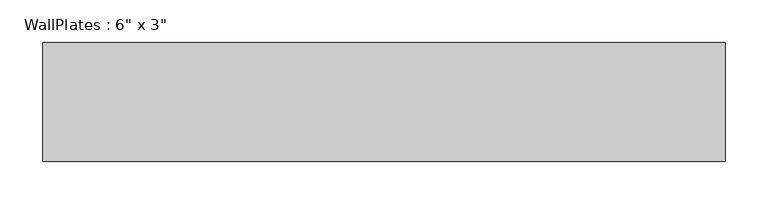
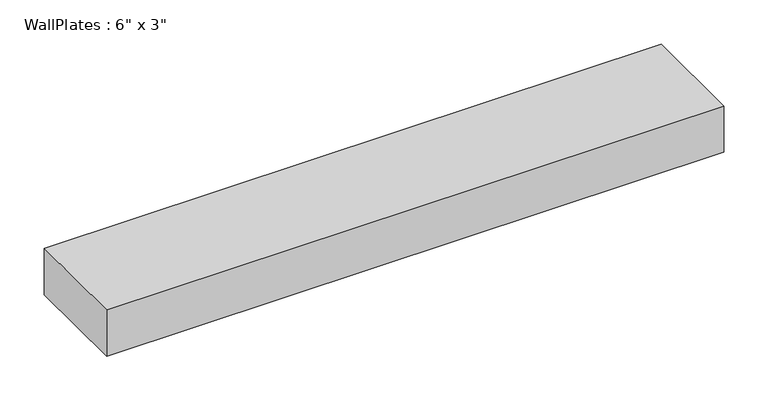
"""IFC4 building model written with IfcOpenShell, lengths in millimetres: beam geometry."""

import ifcopenshell
import ifcopenshell.guid

model = None  # the IFC model being written
_history = None  # IfcOwnerHistory: only IFC2X3 demands one
_inside = {}  # id of a spatial element -> (the spatial element, [elements in it])
_under = {}  # id of a project, library or spatial element -> (it, [spatial elements below it])
_declared = {}  # id of a project -> (the project, [libraries it declares])
_typed = {}  # id of a type object -> (the type object, [elements of that type])
_made_of = {}  # id of a material, layer set ... -> (it, [elements and type objects made of it])


def new_model(schema):
    """Start an empty IFC model of exactly this schema.

    Asked for "IFC4X3", IfcOpenShell would pick the latest addendum, in which some entities
    have other attributes; the version numbers below select the first issue.
    IFC2X3 requires an IfcOwnerHistory on every rooted entity: one is made here for all.
    """
    global model, _history
    if schema == "IFC4X3":
        model = ifcopenshell.file(schema_version=(4, 3, 0, 0))
    else:
        model = ifcopenshell.file(schema=schema)
    _inside.clear()
    _under.clear()
    _declared.clear()
    _typed.clear()
    _made_of.clear()
    _history = None
    if model.schema == "IFC2X3":
        org = make("IfcOrganization", Name="unknown")
        user = make(
            "IfcPersonAndOrganization",
            ThePerson=make("IfcPerson", FamilyName="unknown"),
            TheOrganization=org,
        )
        app = make(
            "IfcApplication",
            ApplicationDeveloper=org,
            Version="unknown",
            ApplicationFullName="unknown",
            ApplicationIdentifier="unknown",
        )
        _history = make(
            "IfcOwnerHistory",
            OwningUser=user,
            OwningApplication=app,
            ChangeAction="ADDED",
            CreationDate=0,
        )
    return model


def make(cls, **values):
    """One entity of the class cls with the attributes given. An attribute that is None is left unset."""
    return model.create_entity(
        cls, **{name: value for name, value in values.items() if value is not None}
    )


def rooted(cls, **values):
    """An entity with a GlobalId (a new one), such as an element, a storey or a relation."""
    return make(cls, GlobalId=ifcopenshell.guid.new(), OwnerHistory=_history, **values)


def si_unit(unit_type, name, prefix=None):
    """IfcSIUnit, for example si_unit("LENGTHUNIT", "METRE", prefix="MILLI")."""
    return make("IfcSIUnit", UnitType=unit_type, Prefix=prefix, Name=name)


def assignment(units):
    """IfcUnitAssignment: the units of a project."""
    return None if units is None else make("IfcUnitAssignment", Units=units)


def point(xyz):
    """IfcCartesianPoint."""
    return None if xyz is None else make("IfcCartesianPoint", Coordinates=xyz)


def direction(xyz):
    """IfcDirection."""
    return None if xyz is None else make("IfcDirection", DirectionRatios=xyz)


def frame(location, z_axis=None, x_axis=None):
    """IfcAxis2Placement3D, a coordinate frame: its origin and axes. An axis left out is left unset."""
    return make(
        "IfcAxis2Placement3D",
        Location=point(location),
        Axis=direction(z_axis),
        RefDirection=direction(x_axis),
    )


def origin():
    """The frame at (0, 0, 0) with its axes left unset."""
    return frame((0.0, 0.0, 0.0))


def place(relative_to, where):
    """IfcLocalPlacement: puts the frame where relative to a parent placement (None: the world)."""
    return make(
        "IfcLocalPlacement", PlacementRelTo=relative_to, RelativePlacement=where
    )


def context(
    kind, dimensions, precision=None, world=None, true_north=None, identifier=None
):
    """IfcGeometricRepresentationContext, for example the 3D "Model" context."""
    return make(
        "IfcGeometricRepresentationContext",
        ContextIdentifier=identifier,
        ContextType=kind,
        CoordinateSpaceDimension=dimensions,
        Precision=precision,
        WorldCoordinateSystem=world,
        TrueNorth=true_north,
    )


def project(units=None, contexts=None):
    """IfcProject with its units and contexts."""
    return rooted(
        "IfcProject",
        Name="project",
        RepresentationContexts=contexts,
        UnitsInContext=assignment(units),
    )


def spatial(cls, under=None, at=None, **own):
    """A site, building, storey or space (cls), placed at a placement, below another one or the project."""
    s = rooted(cls, ObjectPlacement=at, **own)
    if under is not None:
        _under.setdefault(under.id(), (under, []))[1].append(s)
    return s


def polyline(points):
    """IfcPolyline through the points."""
    return make("IfcPolyline", Points=[point(p) for p in points])


def outline(outer, holes=None, kind="AREA"):
    """IfcArbitraryClosedProfileDef: a profile drawn as a closed curve; with holes, ...WithVoids."""
    if holes is None:
        return make("IfcArbitraryClosedProfileDef", ProfileType=kind, OuterCurve=outer)
    return make(
        "IfcArbitraryProfileDefWithVoids",
        ProfileType=kind,
        OuterCurve=outer,
        InnerCurves=holes,
    )


def extrude(swept, where, along, depth):
    """IfcExtrudedAreaSolid: the profile swept, set in the frame where, extruded along a direction by depth."""
    return make(
        "IfcExtrudedAreaSolid",
        SweptArea=swept,
        Position=where,
        ExtrudedDirection=direction(along),
        Depth=depth,
    )


def shape(context_of_items, identifier, shape_type, items):
    """IfcShapeRepresentation: the items that make up one representation, for example the "Body"."""
    return make(
        "IfcShapeRepresentation",
        ContextOfItems=context_of_items,
        RepresentationIdentifier=identifier,
        RepresentationType=shape_type,
        Items=items,
    )


def source(mapping_origin, context_of_items, identifier, shape_type, items):
    """IfcRepresentationMap: a shape defined once, which mapped items show again and again."""
    return make(
        "IfcRepresentationMap",
        MappingOrigin=mapping_origin,
        MappedRepresentation=shape(context_of_items, identifier, shape_type, items),
    )


def transform(
    local_origin,
    x_axis=None,
    y_axis=None,
    z_axis=None,
    scale=None,
    scale2=None,
    scale3=None,
    uniform=True,
):
    """IfcCartesianTransformationOperator3D, or its non-uniform kind. x_axis, y_axis, z_axis: its Axis1, 2, 3."""
    if uniform:
        return make(
            "IfcCartesianTransformationOperator3D",
            Axis1=direction(x_axis),
            Axis2=direction(y_axis),
            LocalOrigin=point(local_origin),
            Scale=scale,
            Axis3=direction(z_axis),
        )
    return make(
        "IfcCartesianTransformationOperator3DnonUniform",
        Axis1=direction(x_axis),
        Axis2=direction(y_axis),
        LocalOrigin=point(local_origin),
        Scale=scale,
        Axis3=direction(z_axis),
        Scale2=scale2,
        Scale3=scale3,
    )


def mapped(mapping_source, mapping_target):
    """IfcMappedItem: shows the shape of a source again, moved by a transform."""
    return make(
        "IfcMappedItem", MappingSource=mapping_source, MappingTarget=mapping_target
    )


def made_of(thing, what):
    """Note that an element or type object is made of a material, layer set ...; save() writes the relation."""
    if what is not None:
        _made_of.setdefault(what.id(), (what, []))[1].append(thing)
    return thing


def element(
    cls,
    number,
    at=None,
    inside=None,
    cuts=None,
    type_object=None,
    material=None,
    context=None,
    identifier="Body",
    shape_type=None,
    held_by="IfcProductDefinitionShape",
    body=None,
    shapes=None,
    **own,
):
    """One element of the class cls, such as IfcWall. Its Tag is "e" and its number.

    at: its placement. inside: the storey or other place that contains it. cuts: it is an
    opening in that element (IfcRelVoidsElement). A single representation is given by context,
    identifier, shape_type and body (its items); several are given by shapes. held_by: the class
    of the entity that holds the representations. save() writes the other relations.
    """
    e = rooted(cls, Tag="e%d" % number, ObjectPlacement=at, **own)
    if body is not None:
        shapes = [shape(context, identifier, shape_type, body)]
    if shapes is not None:
        e.Representation = make(held_by, Representations=shapes)
    if inside is not None:
        _inside.setdefault(inside.id(), (inside, []))[1].append(e)
    if cuts is not None:
        rooted(
            "IfcRelVoidsElement", RelatingBuildingElement=cuts, RelatedOpeningElement=e
        )
    if type_object is not None:
        _typed.setdefault(type_object.id(), (type_object, []))[1].append(e)
    return made_of(e, material)


def aggregate(whole, parts):
    """IfcRelAggregates: a whole, such as a stair, and the parts it consists of."""
    return rooted("IfcRelAggregates", RelatingObject=whole, RelatedObjects=parts)


def save(model, path):
    """Write the relations noted so far, then the file.

    IfcRelAggregates (storeys below a building ...), IfcRelContainedInSpatialStructure (elements
    in a storey), IfcRelDefinesByType, IfcRelAssociatesMaterial and IfcRelDeclares: one each for
    every whole, place, type object, material and project.
    """
    for whole, parts in _under.values():
        aggregate(whole, parts)
    for where, things in _inside.values():
        rooted(
            "IfcRelContainedInSpatialStructure",
            RelatedElements=things,
            RelatingStructure=where,
        )
    for kind, things in _typed.values():
        rooted("IfcRelDefinesByType", RelatedObjects=things, RelatingType=kind)
    for what, things in _made_of.values():
        rooted("IfcRelAssociatesMaterial", RelatedObjects=things, RelatingMaterial=what)
    for by, libraries in _declared.values():
        rooted("IfcRelDeclares", RelatingContext=by, RelatedDefinitions=libraries)
    model.write(path)


def beam_a2527db5(model_context):
    return source(origin(), model_context, "Body", "SweptSolid", [
        extrude(outline(polyline([(-400.8966667, -69.85), (-400.8966667, 69.85), (400.8966667, 69.85), (400.8966667, -69.85), (-400.8966667, -69.85)])), frame((0.0, 0.0, -31.75), z_axis=(0.0, 0.0, 1.0), x_axis=(1.0, 0.0, 0.0)), (0.0, 0.0, 1.0), 63.5),
    ])


if __name__ == "__main__":
    model = new_model("IFC4")
    model_context = context("Model", 3, world=origin())
    ifc_project = project(units=[si_unit("LENGTHUNIT", "METRE", prefix="MILLI")], contexts=[model_context])
    site = spatial("IfcSite", under=ifc_project)
    building = spatial("IfcBuilding", under=site)
    placement = place(None, origin())
    beam_shape = beam_a2527db5(model_context)
    element("IfcBeam", 1, ObjectType="WallPlates : 6\" x 3\"", at=placement, inside=building, context=model_context, shape_type="MappedRepresentation", body=[
        mapped(beam_shape, transform((0.0, 0.0, 0.0), x_axis=(1.0, 0.0, 0.0), y_axis=(0.0, 1.0, 0.0), z_axis=(0.0, 0.0, 1.0))),
    ])
    save(model, "model.ifc")
